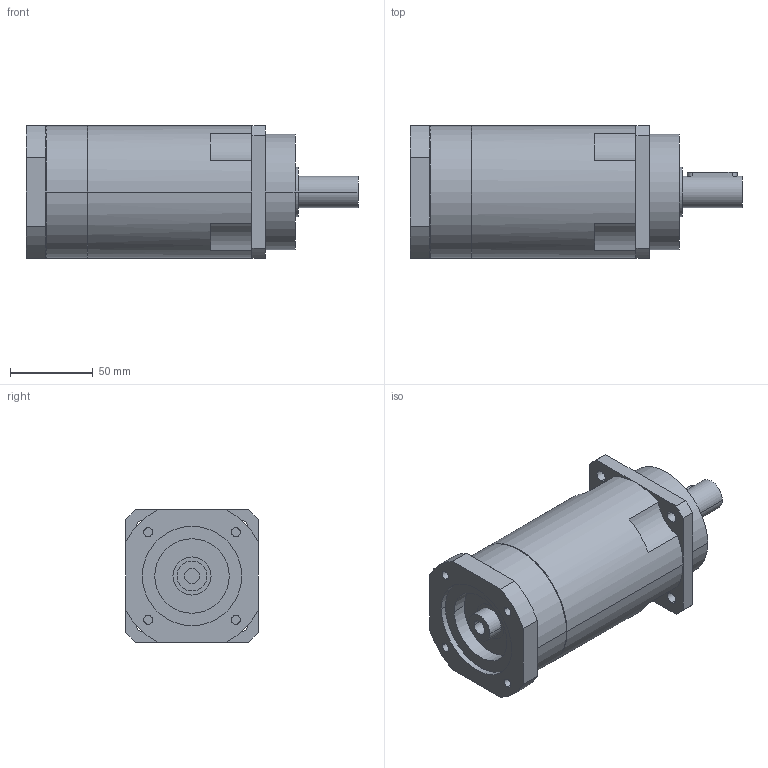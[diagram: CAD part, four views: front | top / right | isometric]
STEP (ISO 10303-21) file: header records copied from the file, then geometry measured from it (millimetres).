
FILE_DESCRIPTION(('CoCreate Modeling STEP Export'),'2;1');
FILE_NAME('GPR100_ig-48-64-80-100-120-144-180-216_19_B5_9_P03.stp','2014-08-26T13:05:04',(''),(''),'CoCreate Modeling STEP processor for AP214 (Solid Model)','CoCreate Modeling 16.00C 25-Feb-2009 (C) Parametric Technology GmbH','');
FILE_SCHEMA(('AUTOMOTIVE_DESIGN { 1 0 10303 214 1 1 1 1 }'));
Length unit declared in the file: millimetre
Products named in the file (2): GPR100_ig-48-64-80-100-120-144-180-216_19_B5_9_P03
Assembly tree (1 placements, depth 2):
  GPR100_ig-48-64-80-100-120-144-180-216_19_B5_9_P03
    GPR100_ig-48-64-80-100-120-144-180-216_19_B5_9_P03
Bounding box: 200.4 x 80 x 80 mm (x, y, z)
Volume: 792117.8 mm3; surface area: 63824.1 mm2
Topology: 1 solids, 1 shells, 105 faces, 299 edges, 205 vertices
Faces by surface type: cylinder 60, plane 39, cone 6
Entity records: 3145 total; most frequent: CARTESIAN_POINT 643, ORIENTED_EDGE 594, DIRECTION 436, EDGE_CURVE 297, VERTEX_POINT 205, AXIS2_PLACEMENT_3D 166, EDGE_LOOP 132, FACE_OUTER_BOUND 105
